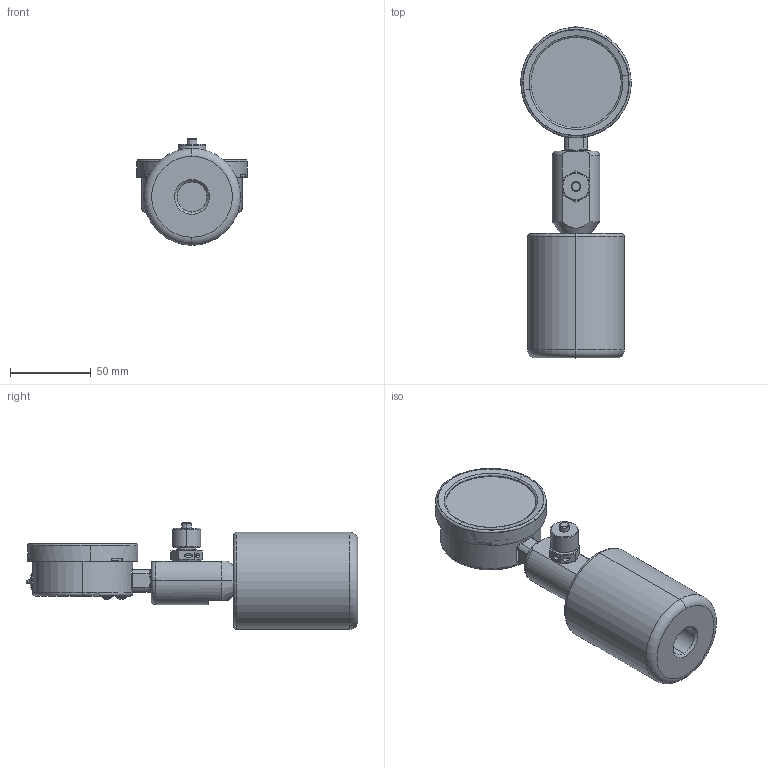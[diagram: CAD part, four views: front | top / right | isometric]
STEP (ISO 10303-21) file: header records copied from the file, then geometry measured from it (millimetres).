
FILE_DESCRIPTION (( 'STEP AP214' ), '1' );
FILE_NAME ('U000A01X1-PP (DGA).STEP', '2025-04-08T09:01:54', ( '' ), ( '' ), 'SwSTEP 2.0', 'SolidWorks 2024', '' );
FILE_SCHEMA (( 'AUTOMOTIVE_DESIGN' ));
Length unit declared in the file: millimetre
Products named in the file (1): U000A01X1-PP (DGA)
Bounding box: 68.39 x 205.5 x 66 mm (x, y, z)
Surface area: 72271.9 mm2 (no closed solid volume)
Topology: 0 solids, 22 shells, 807 faces, 2602 edges, 1756 vertices
Faces by surface type: plane 300, bspline 187, cylinder 186, torus 62, cone 62, sphere 10
Entity records: 60920 total; most frequent: CARTESIAN_POINT 31299, ORIENTED_EDGE 4408, DIRECTION 3589, EDGE_CURVE 2600, VERTEX_POINT 1756, VECTOR 1351, LINE 1351, AXIS2_PLACEMENT_3D 1119
